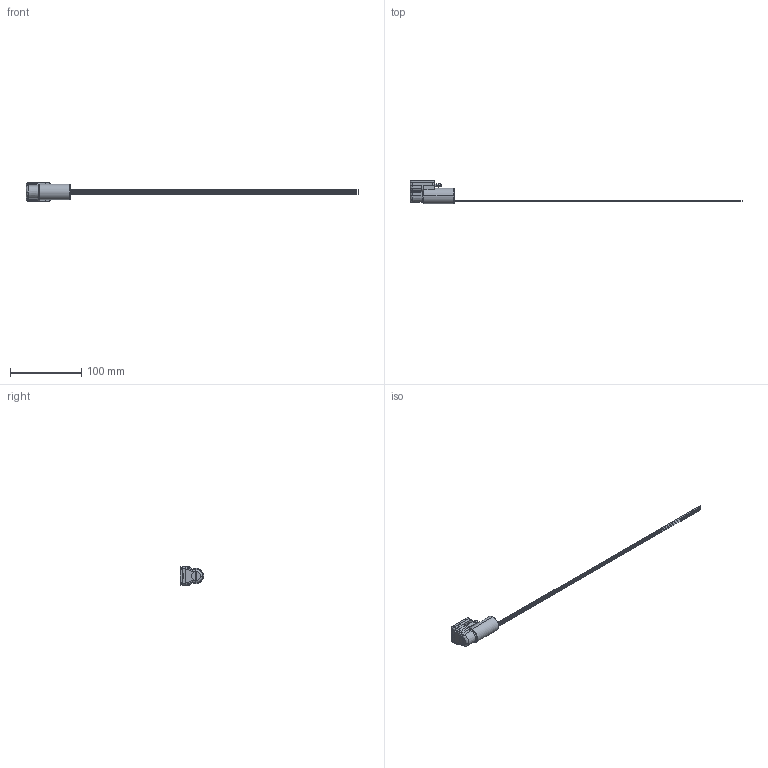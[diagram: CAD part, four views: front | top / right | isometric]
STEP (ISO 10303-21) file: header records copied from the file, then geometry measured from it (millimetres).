
FILE_DESCRIPTION (( 'STEP AP203' ), '1' );
FILE_NAME ('11K BLDC.STEP', '2021-05-23T13:54:45', ( '' ), ( '' ), 'SwSTEP 2.0', 'SolidWorks 2020', '' );
FILE_SCHEMA (( 'CONFIG_CONTROL_DESIGN' ));
Length unit declared in the file: millimetre
Products named in the file (1): 11K BLDC
Bounding box: 465.25 x 32.95 x 26 mm (x, y, z)
Surface area: 18760.7 mm2 (no closed solid volume)
Topology: 0 solids, 15 shells, 301 faces, 1136 edges, 852 vertices
Faces by surface type: plane 133, cylinder 75, cone 61, bspline 32
Entity records: 13945 total; most frequent: CARTESIAN_POINT 4682, DIRECTION 1830, ORIENTED_EDGE 1727, EDGE_CURVE 1134, VERTEX_POINT 852, AXIS2_PLACEMENT_3D 649, VECTOR 532, LINE 532
